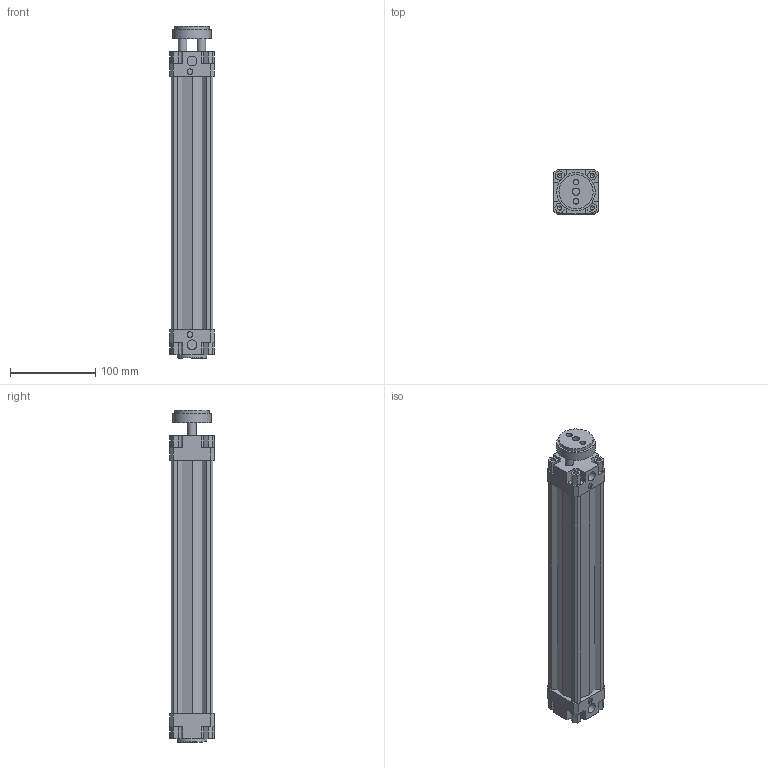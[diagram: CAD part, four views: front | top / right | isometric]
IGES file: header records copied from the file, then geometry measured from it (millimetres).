
Global section: file name: 132#_040_0250_01; native system: Autodesk Inventor 2014; preprocessor: unknown; author: A. Manieri; date: 20161006.154854; units: millimetre
Bounding box: 52 x 52 x 389 mm (x, y, z)
Volume: 473148.9 mm3; surface area: 161431.5 mm2
Topology: 2 solids, 2 shells, 180 faces, 492 edges, 336 vertices
Faces by surface type: bspline 180
